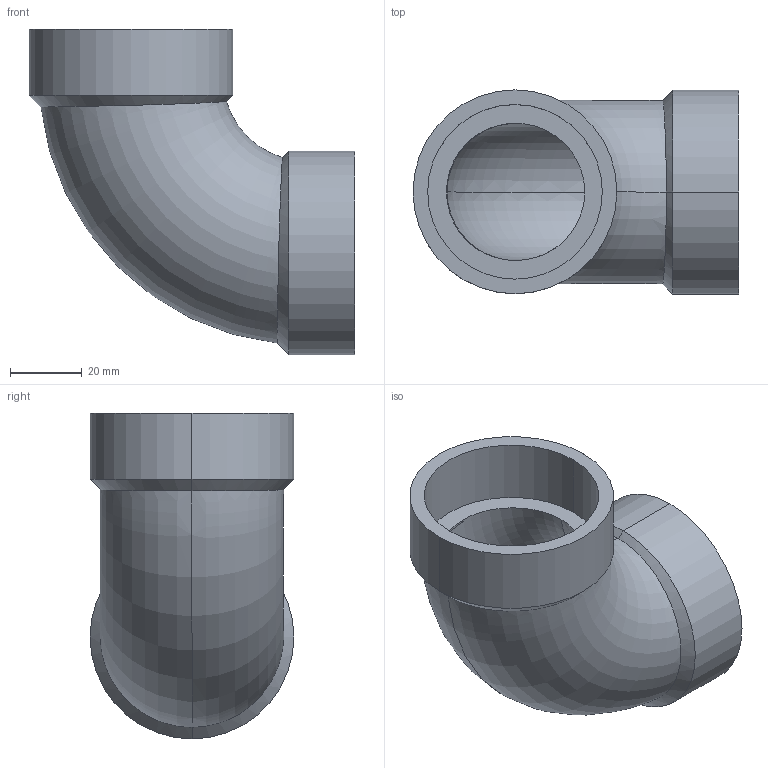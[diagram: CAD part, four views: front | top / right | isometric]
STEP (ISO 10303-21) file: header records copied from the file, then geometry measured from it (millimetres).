
FILE_DESCRIPTION(('starvars output'),'1');
FILE_NAME('cv20240419154051000004293.stp','15:40:51 2024/04/19',('Thomas Industrial Network Germany GmbH'),(' '),'Spatial InterOp 3D',' ',' ');
FILE_SCHEMA(('AUTOMOTIVE_DESIGN { 1 0 10303 214 3 1 1 }'));
Length unit declared in the file: millimetre
Products named in the file (1): 1
Bounding box: 90.55 x 56.64 x 90.55 mm (x, y, z)
Volume: 86818.6 mm3; surface area: 33940.2 mm2
Topology: 1 solids, 1 shells, 26 faces, 58 edges, 36 vertices
Faces by surface type: cylinder 12, plane 6, torus 4, cone 4
Entity records: 1884 total; most frequent: CARTESIAN_POINT 1075, DIRECTION 124, ORIENTED_EDGE 116, EDGE_CURVE 58, AXIS2_PLACEMENT_3D 55, VERTEX_POINT 36, EDGE_LOOP 30, CIRCLE 28
